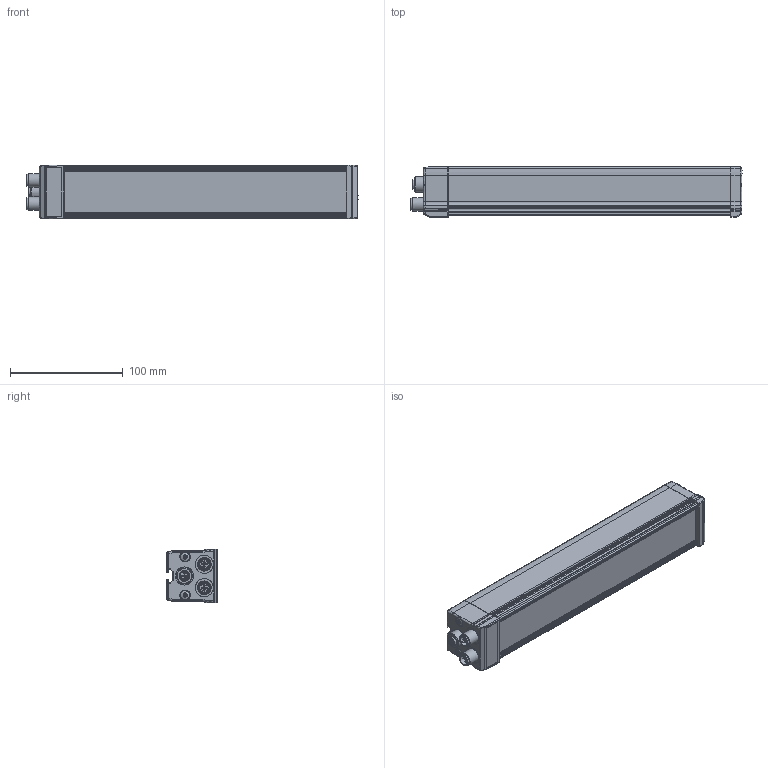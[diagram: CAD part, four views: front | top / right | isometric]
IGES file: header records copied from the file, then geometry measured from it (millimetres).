
Global section: file name: 153-01219_LB 250 xK-24--Axx-2L5; native system: Autodesk Inventor 2016; preprocessor: unknown; author: AGOUGEON; date: 20160425.120938; units: millimetre
Bounding box: 295.05 x 45 x 47.63 mm (x, y, z)
Volume: 432421.3 mm3; surface area: 116564.1 mm2
Topology: 1 solids, 2 shells, 1031 faces, 2714 edges, 1744 vertices
Faces by surface type: bspline 1031
